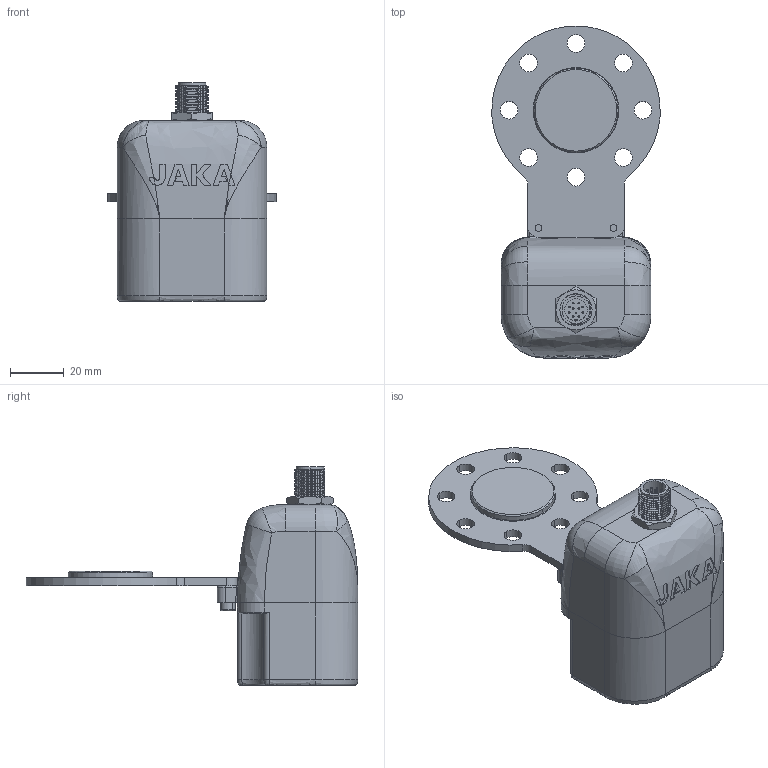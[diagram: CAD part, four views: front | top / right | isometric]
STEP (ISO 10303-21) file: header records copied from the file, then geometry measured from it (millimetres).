
FILE_DESCRIPTION (( 'STEP AP203' ), '1' );
FILE_NAME ('LS2D-00-00_Lens 2D.STEP', '2021-01-14T01:23:01', ( '' ), ( '' ), 'SwSTEP 2.0', 'SolidWorks 2016', '' );
FILE_SCHEMA (( 'CONFIG_CONTROL_DESIGN' ));
Length unit declared in the file: millimetre
Products named in the file (1): LS2D-00-00_Lens 2D
Bounding box: 62.81 x 124 x 81.55 mm (x, y, z)
Volume: 57262.9 mm3; surface area: 45067.6 mm2
Topology: 12 solids, 12 shells, 688 faces, 1700 edges, 1053 vertices
Faces by surface type: cylinder 277, plane 276, cone 50, bspline 46, torus 30, sphere 9
Entity records: 30132 total; most frequent: CARTESIAN_POINT 14242, ORIENTED_EDGE 3330, DIRECTION 3250, EDGE_CURVE 1665, AXIS2_PLACEMENT_3D 1235, VERTEX_POINT 1053, LINE 780, VECTOR 780
